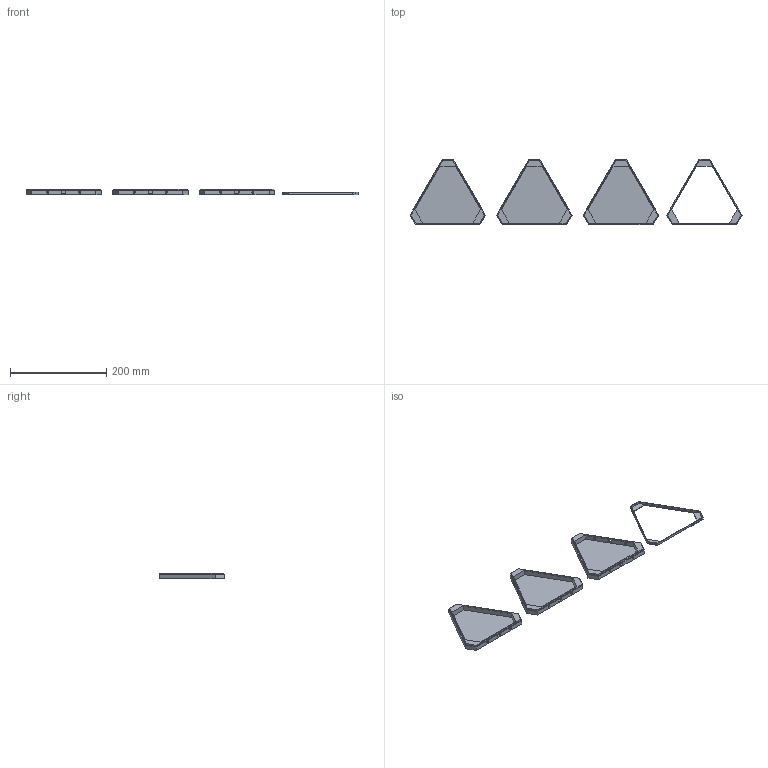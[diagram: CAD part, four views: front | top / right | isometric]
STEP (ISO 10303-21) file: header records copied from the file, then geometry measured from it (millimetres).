
FILE_DESCRIPTION(/* description */ (''),/* implementation_level */ '2;1');
FILE_NAME(/* name */ 'C:/Users/Touko/Desktop/Nanoleaf.step',/* time_stamp */ '2018-11-22T09:16:23+02:00',/* author */ ('touko.marjoniemi'),/* organization */ (''),/* preprocessor_version */ 'ST-DEVELOPER v17.2',/* originating_system */ 'Autodesk Translation Framework v7.6.0.251',/* authorisation */ '');
FILE_SCHEMA (('AUTOMOTIVE_DESIGN { 1 0 10303 214 3 1 1 }'));
Length unit declared in the file: millimetre
Products named in the file (1): Nanoleaf
Bounding box: 690.23 x 135.88 x 12 mm (x, y, z)
Volume: 105247.7 mm3; surface area: 119554.6 mm2
Topology: 4 solids, 4 shells, 171 faces, 447 edges, 303 vertices
Faces by surface type: plane 123, cylinder 36, bspline 12
Full cylindrical faces by diameter (mm): 4.1 x12
Entity records: 5661 total; most frequent: CARTESIAN_POINT 1234, ORIENTED_EDGE 894, DIRECTION 890, EDGE_CURVE 447, LINE 324, VECTOR 324, VERTEX_POINT 303, AXIS2_PLACEMENT_3D 283
